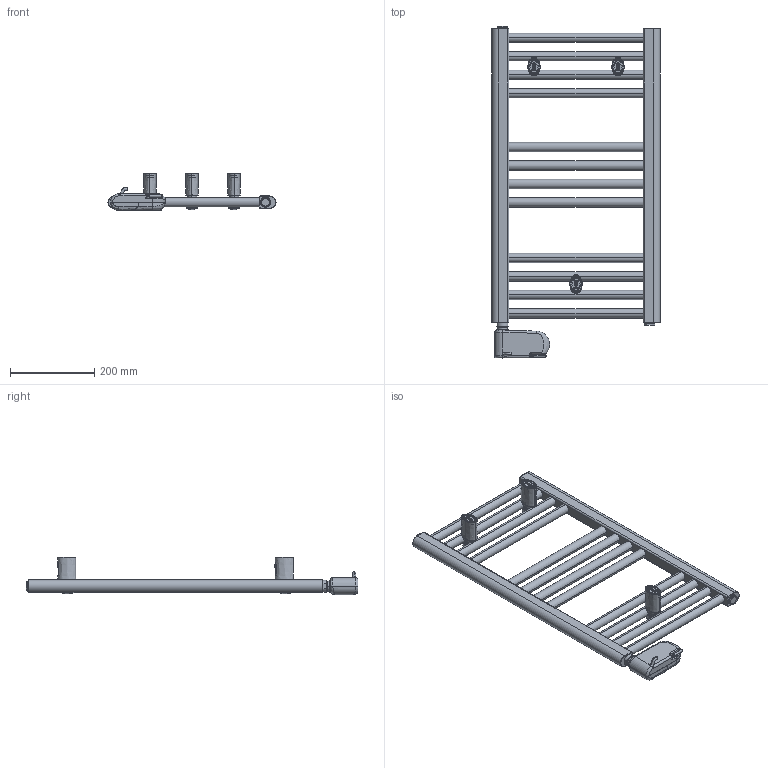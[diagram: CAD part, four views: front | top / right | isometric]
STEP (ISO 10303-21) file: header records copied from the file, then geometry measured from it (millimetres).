
FILE_DESCRIPTION((''),'2;1');
FILE_NAME('3581656100010_3D_SITO_ASM','2026-01-13T14:20:49',('PC132'),(''),'CREO PARAMETRIC BY PTC INC, 2025323','CREO PARAMETRIC BY PTC INC, 2025323','');
FILE_SCHEMA(('AUTOMOTIVE_DESIGN { 1 0 10303 214 1 1 1 1 }'));
Length unit declared in the file: millimetre
Products named in the file (17): 2551650500200_3D_SITO; BICCHIERE_PARETE; PERNO_SCORROVOLE; DADO_QUADRO_M5_X_GIUNTO; DADO_M6_X_GIUNTO; PERNO_SCORREVOLE_ASM; BASETTA_ANTERIORE; 1527181430001; VITE_CR_M5_16; VITE_CR_SV_M6_35; 1102001310058_ASM; 1010181240001; 1117000001010; 1035270000037_FRONT; 1035270000037_BACK; 1035270000060_ASM; 3581656100010_3D_SITO_ASM
Assembly tree (19 placements, depth 4):
  3581656100010_3D_SITO_ASM
    2551650500200_3D_SITO
    1102001310058_ASM  x3
      BICCHIERE_PARETE
      PERNO_SCORREVOLE_ASM
        PERNO_SCORROVOLE
        DADO_QUADRO_M5_X_GIUNTO
        DADO_M6_X_GIUNTO
      BASETTA_ANTERIORE
      1527181430001
      VITE_CR_M5_16
      VITE_CR_SV_M6_35
    1010181240001  x2
    1117000001010
    1035270000060_ASM
      1035270000037_FRONT
      1035270000037_BACK
Bounding box: 400 x 790.4 x 88.65 mm (x, y, z)
Volume: 3467784.3 mm3; surface area: 605696.2 mm2
Topology: 32 solids, 45 shells, 5029 faces, 11032 edges, 6121 vertices
Faces by surface type: cylinder 1928, plane 895, torus 766, sphere 641, bspline 609, cone 136, extrusion 54
Entity records: 110400 total; most frequent: CARTESIAN_POINT 41835, DIRECTION 10040, ORIENTED_EDGE 8486, EDGE_CURVE 4256, PRESENTATION_STYLE_ASSIGNMENT 4194, STYLED_ITEM 4190, CURVE_STYLE 4173, AXIS2_PLACEMENT_3D 4167
